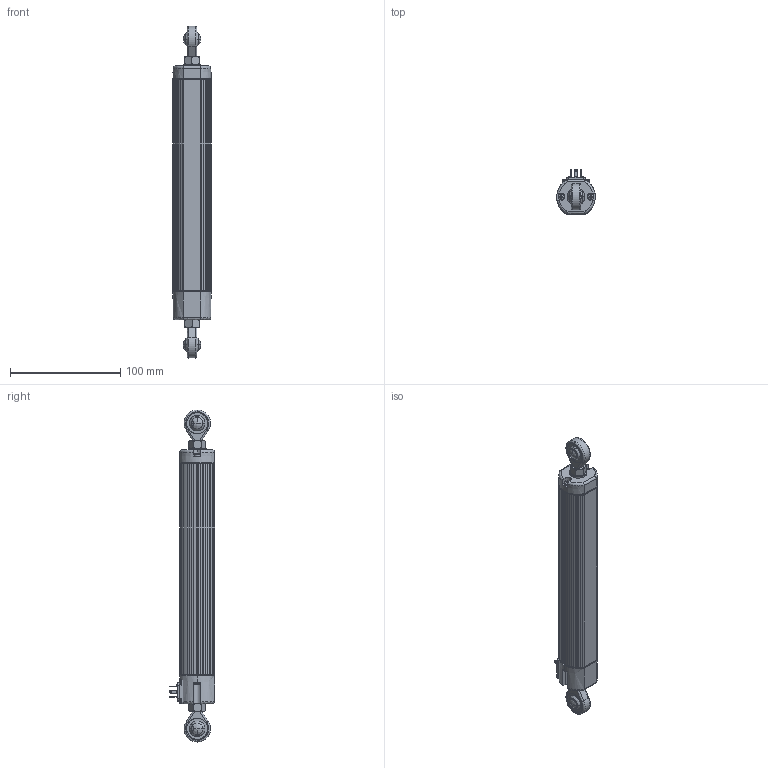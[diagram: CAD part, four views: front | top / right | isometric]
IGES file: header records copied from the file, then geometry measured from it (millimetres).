
Start section: SolidWorks IGES file using analytic representation for surfaces
Global section: file name: \\srv4gefran\dir-cat\Disegni Catalogo\Posizione\PCV2\PC-M-0100\3D\Solidworks 2012\PC-M-0100.IGS; native system: SolidWorks 2015; preprocessor: SolidWorks 2015; author: Loda-w1; date: 160517.175157; units: millimetre
Bounding box: 35 x 40.9 x 301.5 mm (x, y, z)
Surface area: 59379.4 mm2 (no closed solid volume)
Topology: 0 solids, 0 shells, 2259 faces, 40930 edges, 52532 vertices
Faces by surface type: revolution 1735, bspline 524
